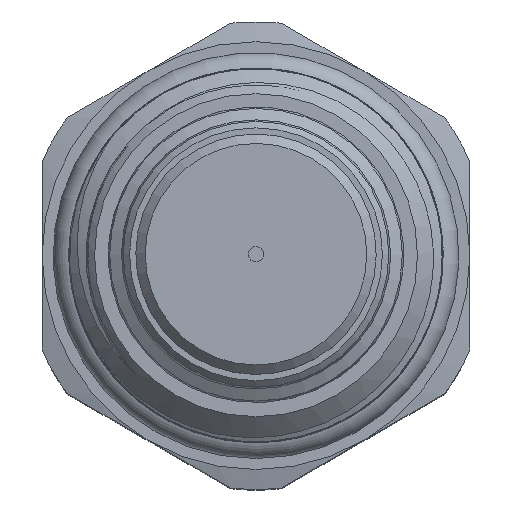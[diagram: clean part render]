
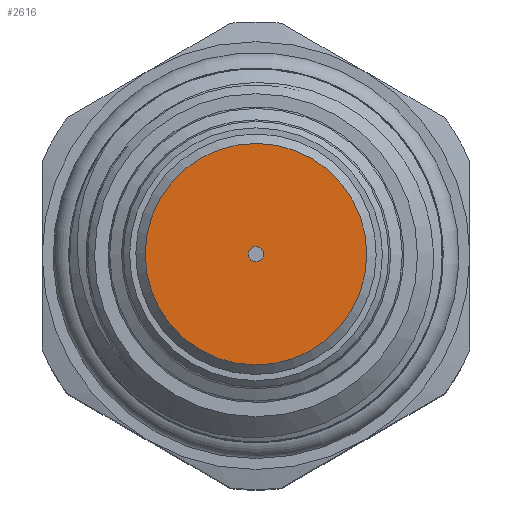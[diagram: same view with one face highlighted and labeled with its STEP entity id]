
A CAD part, top view. The second image highlights one B-rep face of the part: STEP entity #2616.
In plain terms, the highlighted planar face has unit normal (0, 0, 1).
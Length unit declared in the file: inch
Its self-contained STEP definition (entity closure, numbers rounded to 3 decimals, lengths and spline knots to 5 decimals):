
#109=FACE_BOUND('',#570,.T.);
#147=PLANE('',#2916);
#397=FACE_OUTER_BOUND('',#569,.T.);
#569=EDGE_LOOP('',(#2296));
#570=EDGE_LOOP('',(#2297,#2298));
#746=CIRCLE('',#2917,0.259);
#747=CIRCLE('',#2918,0.018);
#748=CIRCLE('',#2919,0.018);
#1260=VERTEX_POINT('',#9510);
#1261=VERTEX_POINT('',#9512);
#1262=VERTEX_POINT('',#9513);
#1618=EDGE_CURVE('',#1260,#1260,#746,.T.);
#1619=EDGE_CURVE('',#1261,#1262,#747,.T.);
#1620=EDGE_CURVE('',#1262,#1261,#748,.T.);
#2296=ORIENTED_EDGE('',*,*,#1618,.F.);
#2297=ORIENTED_EDGE('',*,*,#1619,.T.);
#2298=ORIENTED_EDGE('',*,*,#1620,.T.);
#2616=ADVANCED_FACE('',(#397,#109),#147,.T.);
#2916=AXIS2_PLACEMENT_3D('',#9509,#3544,#3545);
#2917=AXIS2_PLACEMENT_3D('',#9511,#3546,#3547);
#2918=AXIS2_PLACEMENT_3D('',#9514,#3548,#3549);
#2919=AXIS2_PLACEMENT_3D('',#9515,#3550,#3551);
#3544=DIRECTION('center_axis',(0.,0.,
1.));
#3545=DIRECTION('ref_axis',(-0.161,0.987,0.));
#3546=DIRECTION('center_axis',(0.,0.,
-1.));
#3547=DIRECTION('ref_axis',(0.987,0.161,0.));
#3548=DIRECTION('center_axis',(0.,0.,
-1.));
#3549=DIRECTION('ref_axis',(-0.161,0.987,0.));
#3550=DIRECTION('center_axis',(0.,0.,
-1.));
#3551=DIRECTION('ref_axis',(-0.161,0.987,0.));
#9509=CARTESIAN_POINT('Origin',(0.,0.,
2.884));
#9510=CARTESIAN_POINT('',(-0.25561,-0.04176,2.884));
#9511=CARTESIAN_POINT('Origin',(0.,0.,
2.884));
#9512=CARTESIAN_POINT('',(-0.0029,0.01776,2.884));
#9513=CARTESIAN_POINT('',(0.0029,-0.01776,2.884));
#9514=CARTESIAN_POINT('Origin',(0.,0.,
2.884));
#9515=CARTESIAN_POINT('Origin',(0.,0.,
2.884));
